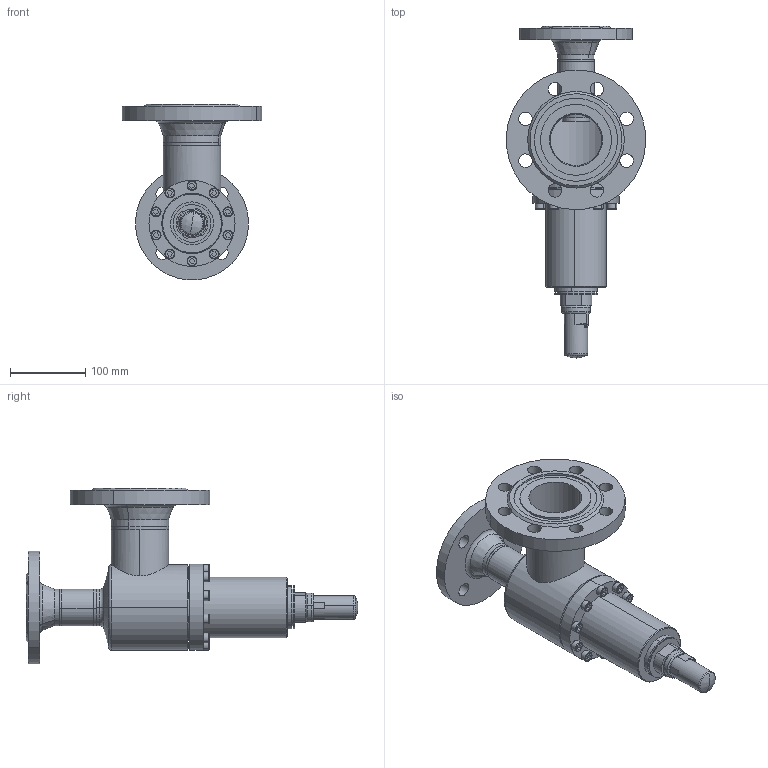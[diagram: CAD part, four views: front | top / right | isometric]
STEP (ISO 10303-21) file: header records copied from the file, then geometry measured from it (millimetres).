
FILE_DESCRIPTION (( 'STEP AP214' ), '1' );
FILE_NAME ('ORV 452FL-D14-DN40''65_DIN-FL_PS40.STEP', '2010-06-17T08:27:49', ( 'Eckhard Grams' ), ( 'AWP Kälte Klima Armaturen GmbH' ), 'SwSTEP 2.0', 'SolidWorks 2002296', '' );
FILE_SCHEMA (( 'AUTOMOTIVE_DESIGN' ));
Length unit declared in the file: millimetre
Products named in the file (16): ORV 452FL-D14-DN40''65_DIN-FL_PS40; Geh,kpl 43220E14-DN40''65_DIN-FL_PS40_Standard; Flansch-DIN2635-Nut_PS40_DIN-Flansch-DN065_PS40-Nut; Flansch-DIN2635-Nut_PS40_DIN-Flansch-DN040_PS40-Nut; Geh-kpl43200E14-DN40''65_R1_PS40_Standard; Rohrstutzen-E43200E14-DN40_R1_STANDARD; Geh-körper,kpl43200E14-DN40_PS40_R1_Standard; bead43200E14-Geh-kpl-PS40_Standard; Rohrstutzen43200E14-DN40''65_R1_STANDARD; bead43220E14-Geh-kpl_PS40b_Standard; bead43220E14-Geh-kpl_PS40a_Standard; Haube-ORV-DN40-50_Standard; Deckel_ORV_DN40-50_Standard; Loser-Fl44200E14-DN40-SVU_PS40_(DN40-50-SVA-ORV)_Standard; Kappe SVA-SVU-ORV_DN10-40 (M27x1,5)_Standard; Zylinderschraube-DIN912-M 8x30_M 8x 25
Assembly tree (24 placements, depth 4):
  ORV 452FL-D14-DN40''65_DIN-FL_PS40
    Zylinderschraube-DIN912-M 8x30_M 8x 25  x10
    Kappe SVA-SVU-ORV_DN10-40 (M27x1,5)_Standard
    Deckel_ORV_DN40-50_Standard
    Geh,kpl 43220E14-DN40''65_DIN-FL_PS40_Standard
      Flansch-DIN2635-Nut_PS40_DIN-Flansch-DN040_PS40-Nut
      Geh-kpl43200E14-DN40''65_R1_PS40_Standard
        Rohrstutzen43200E14-DN40''65_R1_STANDARD
        Rohrstutzen-E43200E14-DN40_R1_STANDARD
        bead43200E14-Geh-kpl-PS40_Standard
        Geh-körper,kpl43200E14-DN40_PS40_R1_Standard
      bead43220E14-Geh-kpl_PS40a_Standard
      Flansch-DIN2635-Nut_PS40_DIN-Flansch-DN065_PS40-Nut
      bead43220E14-Geh-kpl_PS40b_Standard
    Haube-ORV-DN40-50_Standard
    Loser-Fl44200E14-DN40-SVU_PS40_(DN40-50-SVA-ORV)_Standard
Bounding box: 184.82 x 440 x 232.71 mm (x, y, z)
Volume: 1518024.7 mm3; surface area: 422840.5 mm2
Topology: 22 solids, 22 shells, 995 faces, 2616 edges, 1683 vertices
Faces by surface type: cylinder 622, plane 170, cone 110, torus 49, bspline 40, sphere 4
Entity records: 30357 total; most frequent: CARTESIAN_POINT 18436, ORIENTED_EDGE 2290, DIRECTION 2265, EDGE_CURVE 1145, AXIS2_PLACEMENT_3D 939, VERTEX_POINT 729, EDGE_LOOP 556, CIRCLE 468
